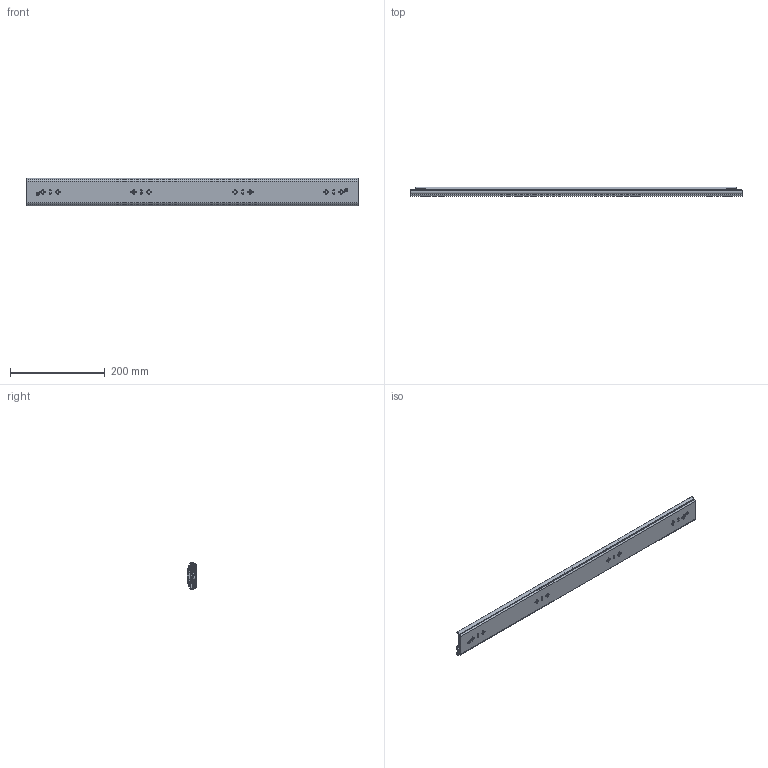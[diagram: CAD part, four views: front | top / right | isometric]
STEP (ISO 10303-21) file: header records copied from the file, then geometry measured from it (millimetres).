
FILE_DESCRIPTION((''),'2;1');
FILE_NAME('1057-C-28_ASM','2023-11-23T',('jishu015'),(''),'PRO/ENGINEER BY PARAMETRIC TECHNOLOGY CORPORATION, 2010280','PRO/ENGINEER BY PARAMETRIC TECHNOLOGY CORPORATION, 2010280','');
FILE_SCHEMA(('CONFIG_CONTROL_DESIGN'));
Products named in the file (19): KP-57-01WEIKE-31____; MAODING-WAI____; 1057DAZHUJIA-20GE1____; 1057ZHUJIADANWEIJIAO123; 1057-5-6GANZHU1____; 1057DAZHUJIA-20GE_11________ASM; 1057-C-20-KE_____ASM; KP-57-01ZHONGGUI-28_________; PEIJIAN-22____; ZHUANJIAO112____; LIUJIAO-DING11____; MAODING-P____; PEIJIAN-ZHONG_____ASM; 1057XIAOZHUJIA___20_____; 1057XIAOZHUJIA-20GE______ASM; KP-57-01ZHONGGUI-28__________ASM; KP-57-01NEIGUI-241____; KP-57-01NEIGUI-241_____ASM; 1057-C-28_ASM
Assembly tree (112 placements, depth 4):
  1057-C-28_ASM
    1057-C-20-KE_____ASM
      KP-57-01WEIKE-31____
      MAODING-WAI____  x2
      1057DAZHUJIA-20GE_11________ASM
        1057DAZHUJIA-20GE1____
        1057ZHUJIADANWEIJIAO123  x2
        1057-5-6GANZHU1____  x44
    KP-57-01ZHONGGUI-28__________ASM
      KP-57-01ZHONGGUI-28_________
      PEIJIAN-ZHONG_____ASM  x2
        PEIJIAN-22____
        ZHUANJIAO112____
        LIUJIAO-DING11____
        MAODING-P____
      MAODING-WAI____  x2
      1057XIAOZHUJIA-20GE______ASM
        1057XIAOZHUJIA___20_____
        1057-5-6GANZHU1____  x44
        1057ZHUJIADANWEIJIAO123  x2
    KP-57-01NEIGUI-241_____ASM
      KP-57-01NEIGUI-241____
Bounding box: 700 x 19.8 x 57.67 mm (x, y, z)
Volume: 299763.9 mm3; surface area: 347215 mm2
Topology: 109 solids, 109 shells, 2988 faces, 8252 edges, 5124 vertices
Faces by surface type: plane 1336, cylinder 1202, sphere 182, bspline 98, torus 88, cone 82
Entity records: 82708 total; most frequent: CARTESIAN_POINT 17671, DIRECTION 13818, ORIENTED_EDGE 13470, EDGE_CURVE 6735, AXIS2_PLACEMENT_3D 4790, VERTEX_POINT 4332, VECTOR 4238, LINE 4238
